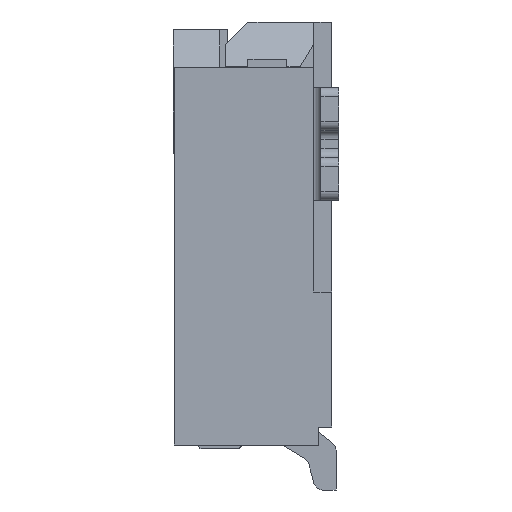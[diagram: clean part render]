
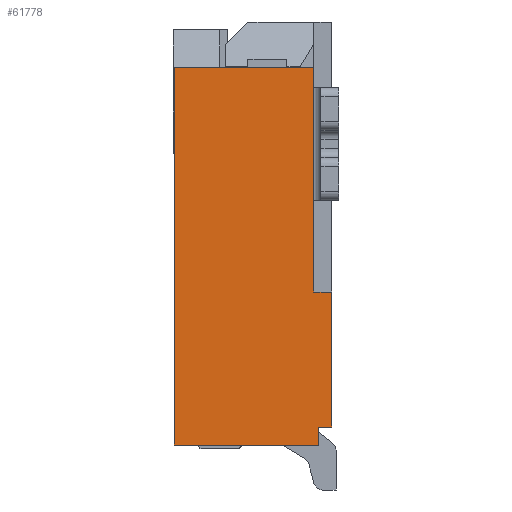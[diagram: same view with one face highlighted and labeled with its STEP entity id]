
A CAD part, left-side view. The second image highlights one B-rep face of the part: STEP entity #61778.
In plain terms, the highlighted planar face has unit normal (-1, 0, 0).
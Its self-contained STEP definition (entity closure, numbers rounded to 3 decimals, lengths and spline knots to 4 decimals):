
#437=DIRECTION('',(0.,0.,-1.));
#438=VECTOR('',#437,4.2);
#439=CARTESIAN_POINT('',(0.,1.8254,
-0.5));
#440=LINE('',#439,#438);
#621=DIRECTION('',(0.,-1.,0.));
#622=VECTOR('',#621,1.6);
#623=CARTESIAN_POINT('',(0.,1.8254,
-4.7));
#624=LINE('',#623,#622);
#4604=DIRECTION('',(0.,-1.,0.));
#4605=VECTOR('',#4604,0.15);
#4606=CARTESIAN_POINT('',(0.,0.2254,
-4.5));
#4607=LINE('',#4606,#4605);
#11117=DIRECTION('',(0.,0.,-1.));
#11118=VECTOR('',#11117,2.5);
#11119=CARTESIAN_POINT('',(0.,0.2754,
-0.5));
#11120=LINE('',#11119,#11118);
#11121=DIRECTION('',(0.,0.,-1.));
#11122=VECTOR('',#11121,1.5);
#11123=CARTESIAN_POINT('',(0.,0.0754,
-3.));
#11124=LINE('',#11123,#11122);
#11125=DIRECTION('',(0.,-1.,0.));
#11126=VECTOR('',#11125,1.55);
#11127=CARTESIAN_POINT('',(0.,1.8254,
-0.5));
#11128=LINE('',#11127,#11126);
#11129=DIRECTION('',(0.,1.,0.));
#11130=VECTOR('',#11129,0.2);
#11131=CARTESIAN_POINT('',(0.,0.0754,
-3.));
#11132=LINE('',#11131,#11130);
#11161=DIRECTION('',(0.,0.,1.));
#11162=VECTOR('',#11161,0.2);
#11163=CARTESIAN_POINT('',(0.,0.2254,
-4.7));
#11164=LINE('',#11163,#11162);
#32017=CARTESIAN_POINT('',(0.,0.2754,
-0.5));
#32018=VERTEX_POINT('',#32017);
#32019=CARTESIAN_POINT('',(0.,1.8254,
-0.5));
#32020=VERTEX_POINT('',#32019);
#32031=CARTESIAN_POINT('',(0.,0.2754,
-3.));
#32032=VERTEX_POINT('',#32031);
#32033=CARTESIAN_POINT('',(0.,0.0754,
-3.));
#32034=CARTESIAN_POINT('',(0.,0.0754,
-4.5));
#32035=VERTEX_POINT('',#32033);
#32036=VERTEX_POINT('',#32034);
#32037=CARTESIAN_POINT('',(0.,0.2254,
-4.5));
#32038=VERTEX_POINT('',#32037);
#32039=CARTESIAN_POINT('',(0.,0.2254,
-4.7));
#32040=VERTEX_POINT('',#32039);
#32041=CARTESIAN_POINT('',(0.,1.8254,
-4.7));
#32042=VERTEX_POINT('',#32041);
#61761=CARTESIAN_POINT('',(0.,0.9504,
-2.6));
#61762=DIRECTION('',(1.,0.,0.));
#61763=DIRECTION('',(0.,0.,1.));
#61764=AXIS2_PLACEMENT_3D('',#61761,#61762,#61763);
#61765=PLANE('',#61764);
#61766=ORIENTED_EDGE('',*,*,#61694,.T.);
#61768=ORIENTED_EDGE('',*,*,#61767,.F.);
#61769=ORIENTED_EDGE('',*,*,#48642,.T.);
#61770=ORIENTED_EDGE('',*,*,#48605,.F.);
#61772=ORIENTED_EDGE('',*,*,#61771,.F.);
#61773=ORIENTED_EDGE('',*,*,#41899,.F.);
#61774=ORIENTED_EDGE('',*,*,#41491,.F.);
#61775=ORIENTED_EDGE('',*,*,#61738,.T.);
#61776=EDGE_LOOP('',(#61766,#61768,#61769,#61770,#61772,#61773,#61774,#61775));
#61777=FACE_OUTER_BOUND('',#61776,.F.);
#61778=ADVANCED_FACE('',(#61777),#61765,.F.);
#41491=EDGE_CURVE('',#32020,#32042,#440,.T.);
#41899=EDGE_CURVE('',#32042,#32040,#624,.T.);
#48605=EDGE_CURVE('',#32038,#32036,#4607,.T.);
#48642=EDGE_CURVE('',#32035,#32036,#11124,.T.);
#61694=EDGE_CURVE('',#32018,#32032,#11120,.T.);
#61738=EDGE_CURVE('',#32020,#32018,#11128,.T.);
#61767=EDGE_CURVE('',#32035,#32032,#11132,.T.);
#61771=EDGE_CURVE('',#32040,#32038,#11164,.T.);
